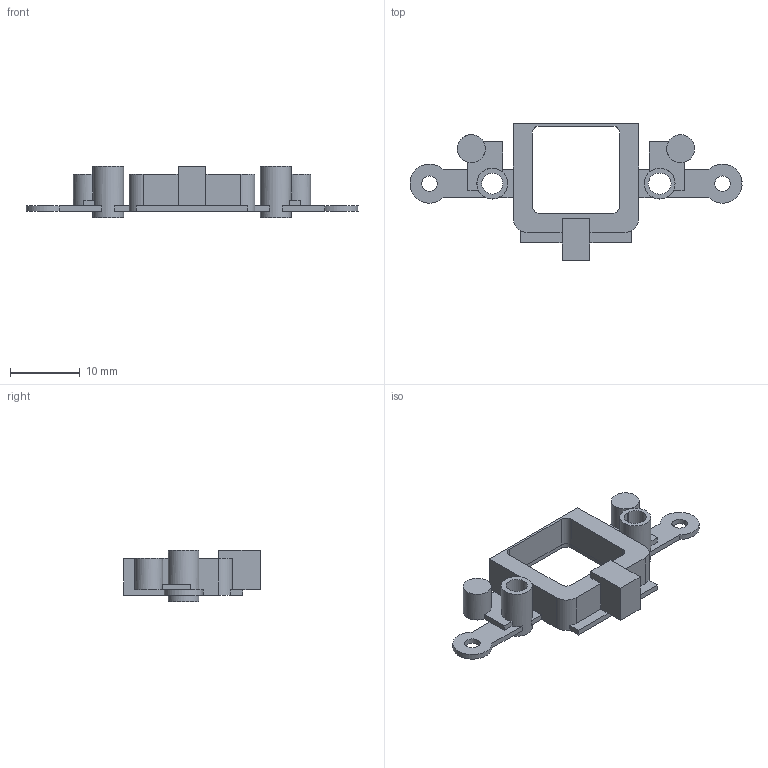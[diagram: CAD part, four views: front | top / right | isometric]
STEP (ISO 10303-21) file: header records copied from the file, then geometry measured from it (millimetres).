
FILE_DESCRIPTION(('Open CASCADE Model'),'2;1');
FILE_NAME('Open CASCADE Shape Model','2026-09-06T11:30:34',('Author'),( 'Open CASCADE'),'Open CASCADE STEP processor 7.7','Open CASCADE 7.7' ,'Unknown');
FILE_SCHEMA(('AUTOMOTIVE_DESIGN { 1 0 10303 214 1 1 1 1 }'));
Length unit declared in the file: millimetre
Products named in the file (1): Open CASCADE STEP translator 7.7 3
Bounding box: 47.58 x 19.6 x 7.35 mm (x, y, z)
Volume: 1090 mm3; surface area: 1789.7 mm2
Topology: 1 solids, 1 shells, 82 faces, 231 edges, 152 vertices
Faces by surface type: plane 61, cylinder 21
Full cylindrical faces by diameter (mm): 2.2 x2, 3.012 x1, 4 x2, 4.4 x2
Entity records: 5673 total; most frequent: CARTESIAN_POINT 1227, DIRECTION 784, ORIENTED_EDGE 462, PCURVE 462, DEFINITIONAL_REPRESENTATION 462, LINE 458, VECTOR 458, EDGE_CURVE 231
